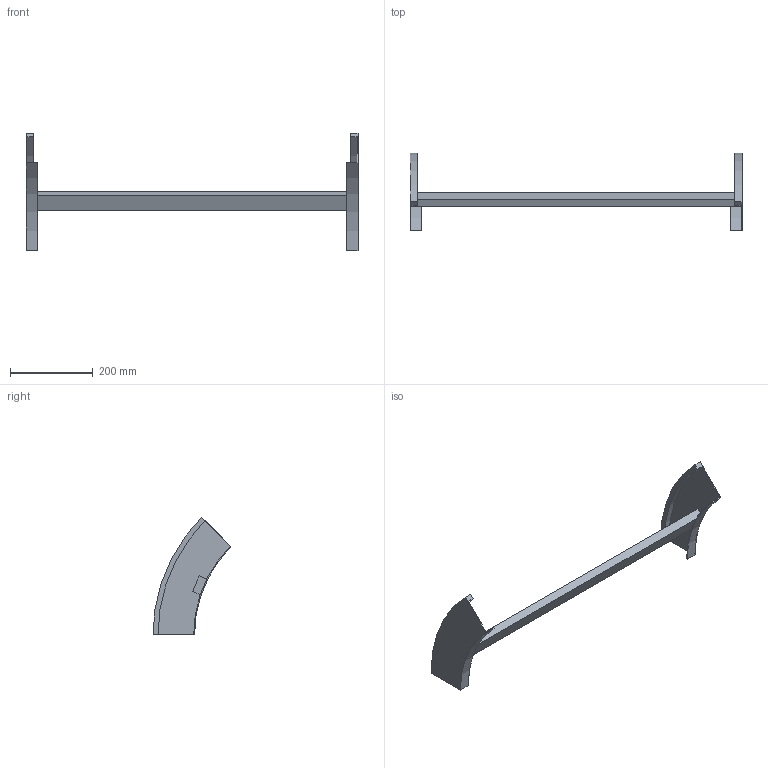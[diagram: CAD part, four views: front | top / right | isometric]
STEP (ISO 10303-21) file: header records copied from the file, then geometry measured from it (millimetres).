
FILE_DESCRIPTION (( 'STEP AP214' ), '1' );
FILE_NAME ('B2_34B3D800.step', '2025-02-21T14:52:23', ( '' ), ( '' ), 'SwSTEP 2.0', 'SolidWorks 2023', '' );
FILE_SCHEMA (( 'AUTOMOTIVE_DESIGN' ));
Length unit declared in the file: millimetre
Products named in the file (3): B2_LONGH.DISCESA_45°_H100_R300; TRAVERSINO_800; B2_34B3D800
Assembly tree (3 placements, depth 2):
  B2_34B3D800
    B2_LONGH.DISCESA_45°_H100_R300  x2
    TRAVERSINO_800
Bounding box: 800 x 187.87 x 282.84 mm (x, y, z)
Volume: 897183.8 mm3; surface area: 255303.9 mm2
Topology: 3 solids, 3 shells, 26 faces, 60 edges, 40 vertices
Faces by surface type: plane 18, cylinder 8
Entity records: 544 total; most frequent: DIRECTION 88, CARTESIAN_POINT 82, ORIENTED_EDGE 72, EDGE_CURVE 36, AXIS2_PLACEMENT_3D 30, LINE 28, VECTOR 28, VERTEX_POINT 24
